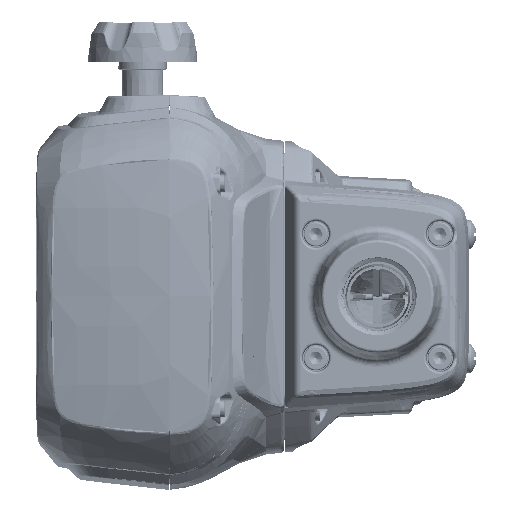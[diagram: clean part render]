
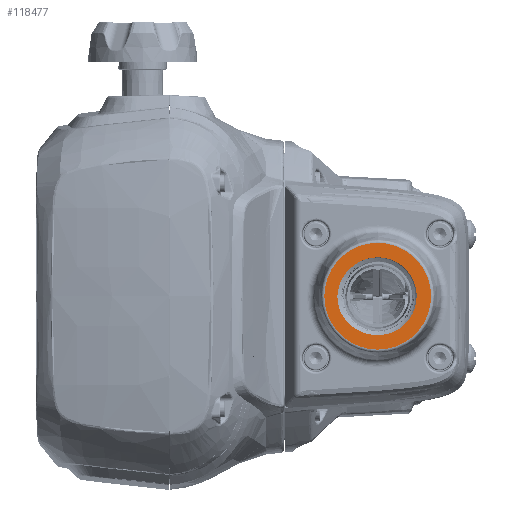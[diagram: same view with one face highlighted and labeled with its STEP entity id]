
A CAD part, top view. The second image highlights one B-rep face of the part: STEP entity #118477.
In plain terms, the highlighted planar face has unit normal (0, 0, 1).
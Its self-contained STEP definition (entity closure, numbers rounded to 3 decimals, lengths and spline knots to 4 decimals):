
#3866=FACE_BOUND('',#25134,.T.);
#4861=PLANE('',#128244);
#11287=CIRCLE('',#127750,0.629);
#11575=CIRCLE('',#128238,0.8616);
#18228=FACE_OUTER_BOUND('',#25133,.T.);
#25133=EDGE_LOOP('',(#106058));
#25134=EDGE_LOOP('',(#106059,#106060,#106061,#106062,#106063));
#33413=B_SPLINE_CURVE_WITH_KNOTS('',3,(#631857,#631858,#631859,#631860,
#631861,#631862,#631863,#631864,#631865,#631866,#631867,#631868,#631869,
#631870,#631871,#631872,#631873,#631874,#631875,#631876,#631877,#631878,
#631879,#631880,#631881,#631882,#631883,#631884,#631885,#631886,#631887),
 .UNSPECIFIED.,.F.,.F.,(4,3,3,3,3,3,3,3,3,3,4),(0.,0.2433,
0.487,0.6134,0.687,0.8154,
1.0568,1.1844,1.2665,1.33,1.4722),
 .UNSPECIFIED.);
#33416=B_SPLINE_CURVE_WITH_KNOTS('',3,(#632809,#632810,#632811,#632812),
 .UNSPECIFIED.,.F.,.F.,(4,4),(-0.0009,0.),.UNSPECIFIED.);
#33417=B_SPLINE_CURVE_WITH_KNOTS('',3,(#633194,#633195,#633196,#633197,
#633198,#633199),.UNSPECIFIED.,.F.,.F.,(4,2,4),(0.,0.3162,0.6333),
 .UNSPECIFIED.);
#33419=B_SPLINE_CURVE_WITH_KNOTS('',3,(#633676,#633677,#633678,#633679,
#633680,#633681,#633682,#633683,#633684,#633685,#633686,#633687,#633688,
#633689,#633690,#633691,#633692,#633693,#633694,#633695,#633696,#633697,
#633698,#633699,#633700,#633701,#633702,#633703,#633704,#633705,#633706,
#633707,#633708,#633709,#633710,#633711,#633712),.UNSPECIFIED.,.F.,.F.,
(4,3,3,3,3,3,3,3,3,3,3,3,4),(2.8106,2.9383,3.0012,
3.058,3.2858,3.5256,3.6176,3.7028,
3.863,3.9886,4.0649,4.3088,4.3433),
 .UNSPECIFIED.);
#52381=VERTEX_POINT('',#631855);
#52382=VERTEX_POINT('',#631856);
#52383=VERTEX_POINT('',#632633);
#52384=VERTEX_POINT('',#633193);
#52385=VERTEX_POINT('',#633675);
#52749=VERTEX_POINT('',#640466);
#69986=EDGE_CURVE('',#52381,#52382,#33413,.T.);
#69989=EDGE_CURVE('',#52382,#52383,#33416,.T.);
#69990=EDGE_CURVE('',#52384,#52381,#33417,.T.);
#69992=EDGE_CURVE('',#52385,#52384,#33419,.T.);
#69994=EDGE_CURVE('',#52383,#52385,#11287,.T.);
#70605=EDGE_CURVE('',#52749,#52749,#11575,.T.);
#106058=ORIENTED_EDGE('',*,*,#70605,.F.);
#106059=ORIENTED_EDGE('',*,*,#69986,.T.);
#106060=ORIENTED_EDGE('',*,*,#69989,.T.);
#106061=ORIENTED_EDGE('',*,*,#69994,.T.);
#106062=ORIENTED_EDGE('',*,*,#69992,.T.);
#106063=ORIENTED_EDGE('',*,*,#69990,.T.);
#118477=ADVANCED_FACE('',(#18228,#3866),#4861,.T.);
#127750=AXIS2_PLACEMENT_3D('',#633728,#149410,#149411);
#128238=AXIS2_PLACEMENT_3D('',#640467,#150489,#150490);
#128244=AXIS2_PLACEMENT_3D('',#641493,#150504,#150505);
#149410=DIRECTION('center_axis',(0.,0.,-1.));
#149411=DIRECTION('ref_axis',(0.,-1.,0.));
#150489=DIRECTION('center_axis',(0.,0.,-1.));
#150490=DIRECTION('ref_axis',(1.,0.,0.));
#150504=DIRECTION('center_axis',(0.,0.,1.));
#150505=DIRECTION('ref_axis',(1.,0.,0.));
#631855=CARTESIAN_POINT('',(-1.7932,0.8426,0.98));
#631856=CARTESIAN_POINT('',(-2.287,1.1027,0.98));
#631857=CARTESIAN_POINT('Ctrl Pts',(-1.7932,0.8426,
0.98));
#631858=CARTESIAN_POINT('Ctrl Pts',(-1.8251,0.8437,
0.98));
#631859=CARTESIAN_POINT('Ctrl Pts',(-1.8568,0.8472,
0.98));
#631860=CARTESIAN_POINT('Ctrl Pts',(-1.8881,0.853,
0.98));
#631861=CARTESIAN_POINT('Ctrl Pts',(-1.9194,0.8589,
0.98));
#631862=CARTESIAN_POINT('Ctrl Pts',(-1.9502,0.867,
0.98));
#631863=CARTESIAN_POINT('Ctrl Pts',(-1.9803,0.8773,
0.98));
#631864=CARTESIAN_POINT('Ctrl Pts',(-1.996,0.8827,
0.98));
#631865=CARTESIAN_POINT('Ctrl Pts',(-2.0114,0.8886,
0.98));
#631866=CARTESIAN_POINT('Ctrl Pts',(-2.0266,0.8952,
0.98));
#631867=CARTESIAN_POINT('Ctrl Pts',(-2.0355,0.899,
0.98));
#631868=CARTESIAN_POINT('Ctrl Pts',(-2.0442,0.9031,
0.98));
#631869=CARTESIAN_POINT('Ctrl Pts',(-2.0529,0.9073,0.98));
#631870=CARTESIAN_POINT('Ctrl Pts',(-2.068,0.9146,0.98));
#631871=CARTESIAN_POINT('Ctrl Pts',(-2.0828,0.9226,
0.98));
#631872=CARTESIAN_POINT('Ctrl Pts',(-2.0973,0.9311,
0.98));
#631873=CARTESIAN_POINT('Ctrl Pts',(-2.1245,0.9471,
0.98));
#631874=CARTESIAN_POINT('Ctrl Pts',(-2.1504,0.9651,
0.98));
#631875=CARTESIAN_POINT('Ctrl Pts',(-2.1749,0.985,
0.98));
#631876=CARTESIAN_POINT('Ctrl Pts',(-2.1878,0.9955,
0.98));
#631877=CARTESIAN_POINT('Ctrl Pts',(-2.2004,1.0065,
0.98));
#631878=CARTESIAN_POINT('Ctrl Pts',(-2.2125,1.018,
0.98));
#631879=CARTESIAN_POINT('Ctrl Pts',(-2.2202,1.0254,
0.98));
#631880=CARTESIAN_POINT('Ctrl Pts',(-2.2279,1.033,
0.98));
#631881=CARTESIAN_POINT('Ctrl Pts',(-2.2353,1.0408,0.98));
#631882=CARTESIAN_POINT('Ctrl Pts',(-2.241,1.0469,
0.98));
#631883=CARTESIAN_POINT('Ctrl Pts',(-2.2466,1.053,
0.98));
#631884=CARTESIAN_POINT('Ctrl Pts',(-2.2521,1.0593,
0.98));
#631885=CARTESIAN_POINT('Ctrl Pts',(-2.2644,1.0733,
0.98));
#631886=CARTESIAN_POINT('Ctrl Pts',(-2.2761,1.0878,
0.98));
#631887=CARTESIAN_POINT('Ctrl Pts',(-2.2871,1.1027,
0.98));
#632633=CARTESIAN_POINT('',(-2.2874,1.1032,0.98));
#632809=CARTESIAN_POINT('Ctrl Pts',(-2.287,1.1027,
0.98));
#632810=CARTESIAN_POINT('Ctrl Pts',(-2.2872,1.1029,0.98));
#632811=CARTESIAN_POINT('Ctrl Pts',(-2.2873,1.1031,
0.98));
#632812=CARTESIAN_POINT('Ctrl Pts',(-2.2874,1.1032,0.98));
#633193=CARTESIAN_POINT('',(-1.5499,0.8899,0.98));
#633194=CARTESIAN_POINT('Ctrl Pts',(-1.5499,0.8899,
0.98));
#633195=CARTESIAN_POINT('Ctrl Pts',(-1.5884,0.8744,
0.98));
#633196=CARTESIAN_POINT('Ctrl Pts',(-1.6284,0.8626,
0.98));
#633197=CARTESIAN_POINT('Ctrl Pts',(-1.71,0.8467,
0.98));
#633198=CARTESIAN_POINT('Ctrl Pts',(-1.7516,0.8426,
0.98));
#633199=CARTESIAN_POINT('Ctrl Pts',(-1.7932,0.8426,
0.98));
#633675=CARTESIAN_POINT('',(-1.1839,1.3414,0.98));
#633676=CARTESIAN_POINT('Ctrl Pts',(-1.1839,1.3414,
0.98));
#633677=CARTESIAN_POINT('Ctrl Pts',(-1.1873,1.325,
0.98));
#633678=CARTESIAN_POINT('Ctrl Pts',(-1.1914,1.3088,
0.98));
#633679=CARTESIAN_POINT('Ctrl Pts',(-1.1962,1.2927,
0.98));
#633680=CARTESIAN_POINT('Ctrl Pts',(-1.1985,1.2848,
0.98));
#633681=CARTESIAN_POINT('Ctrl Pts',(-1.201,1.2769,
0.98));
#633682=CARTESIAN_POINT('Ctrl Pts',(-1.2037,1.2691,
0.98));
#633683=CARTESIAN_POINT('Ctrl Pts',(-1.2061,1.262,
0.98));
#633684=CARTESIAN_POINT('Ctrl Pts',(-1.2086,1.255,
0.98));
#633685=CARTESIAN_POINT('Ctrl Pts',(-1.2112,1.248,
0.98));
#633686=CARTESIAN_POINT('Ctrl Pts',(-1.2218,1.2201,
0.98));
#633687=CARTESIAN_POINT('Ctrl Pts',(-1.2344,1.1929,
0.98));
#633688=CARTESIAN_POINT('Ctrl Pts',(-1.2487,1.1668,
0.98));
#633689=CARTESIAN_POINT('Ctrl Pts',(-1.2638,1.1393,
0.98));
#633690=CARTESIAN_POINT('Ctrl Pts',(-1.2809,1.1129,
0.98));
#633691=CARTESIAN_POINT('Ctrl Pts',(-1.2999,1.0879,
0.98));
#633692=CARTESIAN_POINT('Ctrl Pts',(-1.3072,1.0783,
0.98));
#633693=CARTESIAN_POINT('Ctrl Pts',(-1.3148,1.0689,
0.98));
#633694=CARTESIAN_POINT('Ctrl Pts',(-1.3226,1.0597,
0.98));
#633695=CARTESIAN_POINT('Ctrl Pts',(-1.3299,1.0512,0.98));
#633696=CARTESIAN_POINT('Ctrl Pts',(-1.3374,1.0428,0.98));
#633697=CARTESIAN_POINT('Ctrl Pts',(-1.3451,1.0347,
0.98));
#633698=CARTESIAN_POINT('Ctrl Pts',(-1.3596,1.0195,
0.98));
#633699=CARTESIAN_POINT('Ctrl Pts',(-1.3748,1.005,
0.98));
#633700=CARTESIAN_POINT('Ctrl Pts',(-1.3908,0.9912,
0.98));
#633701=CARTESIAN_POINT('Ctrl Pts',(-1.4032,0.9805,
0.98));
#633702=CARTESIAN_POINT('Ctrl Pts',(-1.4161,0.9701,
0.98));
#633703=CARTESIAN_POINT('Ctrl Pts',(-1.4294,0.9603,
0.98));
#633704=CARTESIAN_POINT('Ctrl Pts',(-1.4375,0.9544,
0.98));
#633705=CARTESIAN_POINT('Ctrl Pts',(-1.4457,0.9486,
0.98));
#633706=CARTESIAN_POINT('Ctrl Pts',(-1.454,0.943,
0.98));
#633707=CARTESIAN_POINT('Ctrl Pts',(-1.4807,0.9252,
0.98));
#633708=CARTESIAN_POINT('Ctrl Pts',(-1.5086,0.9093,
0.98));
#633709=CARTESIAN_POINT('Ctrl Pts',(-1.5376,0.8956,
0.98));
#633710=CARTESIAN_POINT('Ctrl Pts',(-1.5417,0.8937,
0.98));
#633711=CARTESIAN_POINT('Ctrl Pts',(-1.5458,0.8918,
0.98));
#633712=CARTESIAN_POINT('Ctrl Pts',(-1.5499,0.8899,
0.98));
#633728=CARTESIAN_POINT('Origin',(-1.7942,1.4936,0.98));
#640466=CARTESIAN_POINT('',(-2.6558,1.4936,0.98));
#640467=CARTESIAN_POINT('Origin',(-1.7942,1.4936,0.98));
#641493=CARTESIAN_POINT('Origin',(-1.7942,1.4936,0.98));
